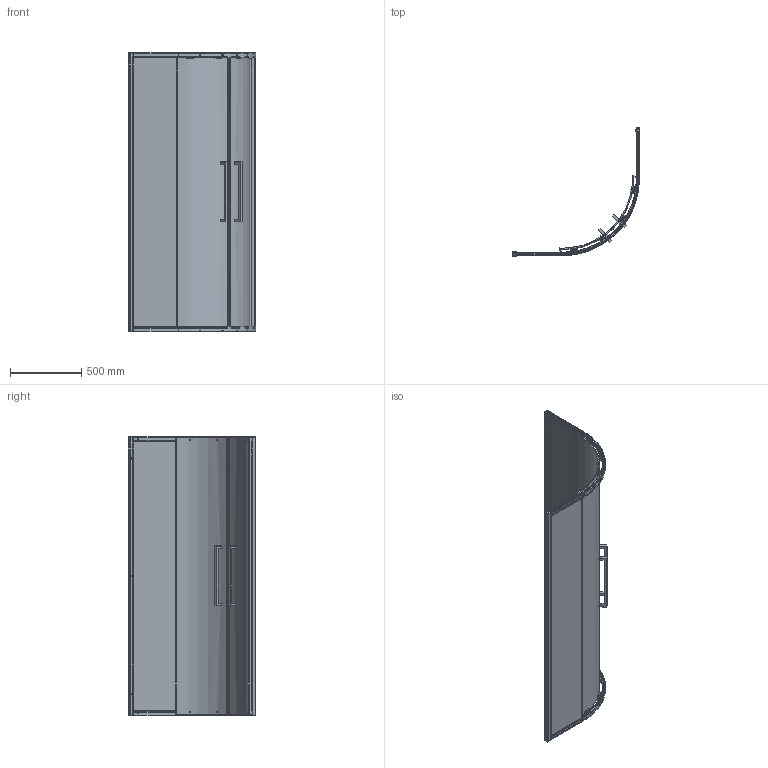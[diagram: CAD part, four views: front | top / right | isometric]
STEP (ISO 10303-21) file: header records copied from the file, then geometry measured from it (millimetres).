
FILE_DESCRIPTION((''),'2;1');
FILE_NAME('00-C617022_ASM','2022-06-07T16:16:16',('M'),(''),'CREO PARAMETRIC BY PTC INC, 2017110','CREO PARAMETRIC BY PTC INC, 2017110','');
FILE_SCHEMA(('CONFIG_CONTROL_DESIGN'));
Length unit declared in the file: millimetre
Products named in the file (36): 00; YTZG_ST4X10; 28Z05-1-; 28Z05-2-; 001_ASM; A00; 001; _0003; 0020; _AF_ASM; _0004; 0021; _A_ASM; 10001; C00_ASM; 0025; 1-N000; _N1000; 0027; 002_ASM; 00-C617022_ASM
Assembly tree (67 placements, depth 4):
  00-C617022_ASM
    001_ASM  x2
      00
      00
      001_ASM
        YTZG_ST4X10
        28Z05-1-
        28Z05-2-
    A00  x2
    001  x2
    C00_ASM
      00
      _AF_ASM
        _0003
        00
        0020
      _AF_ASM
        _0003
        00
        0020
      _A_ASM
        _0004
        0021
        00
      _A_ASM
        _0004
        0021
        00
      10001
      00
      00
    C00_ASM
      00
      _AF_ASM
        _0003
        00
        0020
      _AF_ASM
        _0003
        00
        0020
      _A_ASM
        _0004
        0021
        00
      _A_ASM
        _0004
        0021
        00
      10001
      00
      00
    0025  x2
    1-N000  x2
    _N1000  x2
    002_ASM  x2
      0027
      YTZG_ST4X10
      00
Bounding box: 894.7 x 894.5 x 1953 mm (x, y, z)
Volume: 29052233.4 mm3; surface area: 8589141.2 mm2
Topology: 70 solids, 70 shells, 2082 faces, 4974 edges, 3096 vertices
Faces by surface type: plane 926, cylinder 770, torus 186, bspline 92, sphere 56, cone 52
Entity records: 24254 total; most frequent: CARTESIAN_POINT 5738, DIRECTION 4007, ORIENTED_EDGE 3534, EDGE_CURVE 1767, AXIS2_PLACEMENT_3D 1468, VERTEX_POINT 1114, VECTOR 1071, LINE 1071
